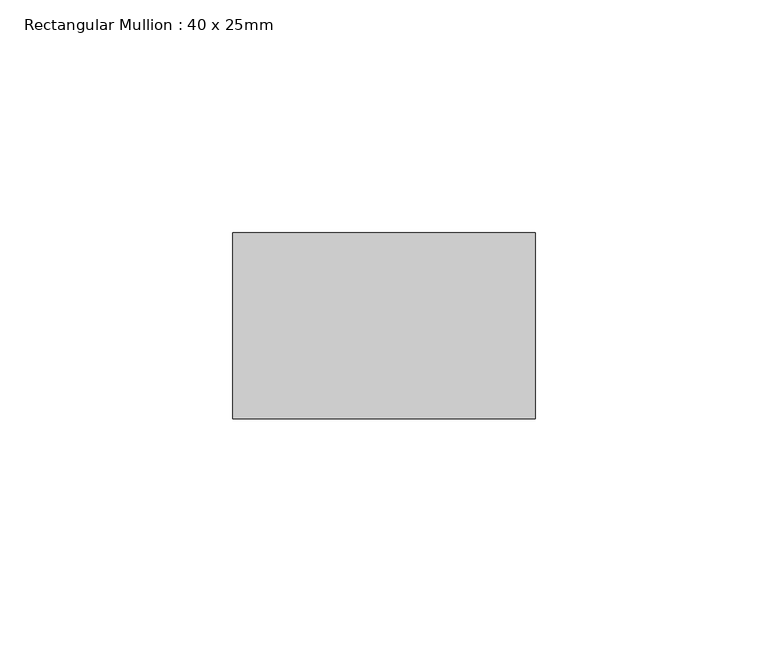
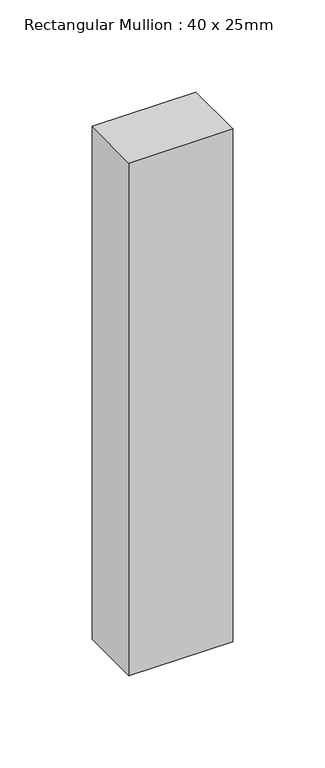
"""IFC4 building model written with IfcOpenShell, lengths in millimetres: member geometry, Rectangular Mullion : 40 x 25mm."""

from ifc_helpers import new_model, si_unit, frame, origin, place, context, project, spatial, polyline, outline, extrude, source, transform, mapped, element, save


def rectangular_mullion_40_x_25mm_485ddec8(model_context):
    return source(origin(), model_context, "Body", "SweptSolid", [
        extrude(outline(polyline([(0.0, -20.0), (0.0, -60.0), (-65.0, -60.0), (-65.0, -20.0), (0.0, -20.0)])), frame((0.0, 0.0, -340.0), z_axis=(0.0, 0.0, 1.0), x_axis=(1.0, 0.0, 0.0)), (0.0, 0.0, 1.0), 340.0),
    ])


if __name__ == "__main__":
    model = new_model("IFC4")
    model_context = context("Model", 3, world=origin())
    ifc_project = project(units=[si_unit("LENGTHUNIT", "METRE", prefix="MILLI")], contexts=[model_context])
    site = spatial("IfcSite", under=ifc_project)
    building = spatial("IfcBuilding", under=site)
    placement = place(None, origin())
    rectangular_mullion_40_x_25mm_shape = rectangular_mullion_40_x_25mm_485ddec8(model_context)
    element("IfcMember", 1, ObjectType="Rectangular Mullion : 40 x 25mm", at=placement, inside=building, context=model_context, shape_type="MappedRepresentation", body=[
        mapped(rectangular_mullion_40_x_25mm_shape, transform((0.0, 0.0, 0.0), x_axis=(1.0, 0.0, 0.0), y_axis=(0.0, 1.0, 0.0), z_axis=(0.0, 0.0, 1.0))),
    ])
    save(model, "model.ifc")
